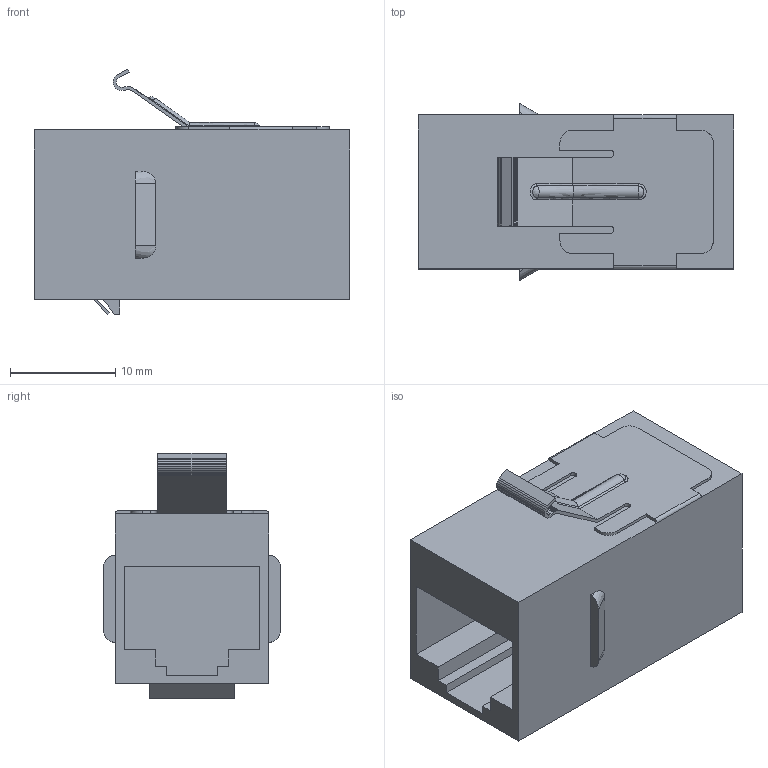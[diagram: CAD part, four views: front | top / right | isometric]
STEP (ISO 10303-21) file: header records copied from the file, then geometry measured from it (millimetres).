
FILE_DESCRIPTION( ('This file contains a STEP AP42 implementation' ,'as created by ZW3D STEP Interface translator.') ,'2;1' );
FILE_NAME( 'TB-031_3013AJSLQF6WH_SD.stp' ,'26 330.134526', (''), ('ZWCAD Software Co.'), 'Version 1.0', 'ZW3D to STEP translator', '' );
FILE_SCHEMA(('AUTOMOTIVE_DESIGN'));
Length unit declared in the file: millimetre
Products named in the file (2): 0; TB-031_3013AJSLQF6WH_SD
Bounding box: 30 x 16.83 x 23.34 mm (x, y, z)
Volume: 4836.4 mm3; surface area: 3485.2 mm2
Topology: 1 solids, 1 shells, 133 faces, 367 edges, 238 vertices
Faces by surface type: bspline 133
Entity records: 6985 total; most frequent: CARTESIAN_POINT 4595, ORIENTED_EDGE 726, B_SPLINE_CURVE_WITH_KNOTS 363, EDGE_CURVE 363, VERTEX_POINT 238, EDGE_LOOP 139, FACE_OUTER_BOUND 133, ADVANCED_FACE 133
